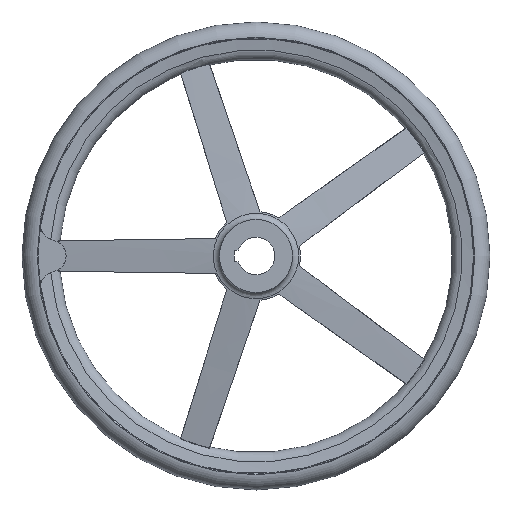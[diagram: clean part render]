
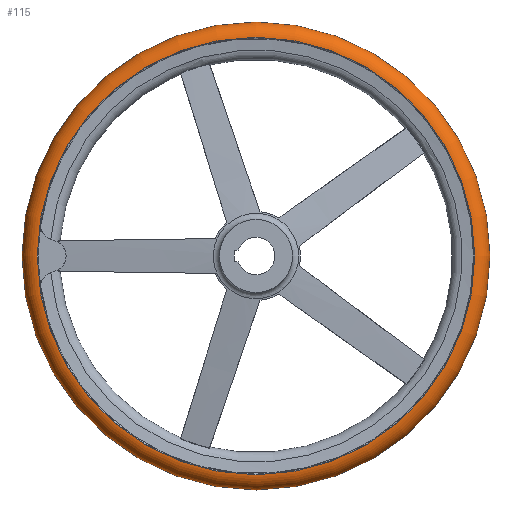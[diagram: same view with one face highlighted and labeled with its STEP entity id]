
A CAD part, left-side view. The second image highlights one B-rep face of the part: STEP entity #115.
In plain terms, the highlighted toroidal (fillet/blend) face has major radius 232.985 mm and minor radius 17.015 mm.
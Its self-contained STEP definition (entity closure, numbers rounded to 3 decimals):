
#115 = ADVANCED_FACE( '', ( #229, #230, #231 ), #232, .T. );
#229 = FACE_BOUND( '', #367, .T. );
#230 = FACE_OUTER_BOUND( '', #368, .T. );
#231 = FACE_OUTER_BOUND( '', #369, .T. );
#232 = TOROIDAL_SURFACE( '', #370, 232.985, 17.015 );
#367 = VERTEX_LOOP( '', #755 );
#368 = EDGE_LOOP( '', ( #756 ) );
#369 = EDGE_LOOP( '', ( #757 ) );
#370 = AXIS2_PLACEMENT_3D( '', #758, #759, #760 );
#755 = VERTEX_POINT( '', #1056 );
#756 = ORIENTED_EDGE( '', *, *, #1057, .T. );
#757 = ORIENTED_EDGE( '', *, *, #1055, .F. );
#758 = CARTESIAN_POINT( '', ( 55., 0., 0. ) );
#759 = DIRECTION( '', ( -1., 0., 0. ) );
#760 = DIRECTION( '', ( 0., -1., 0. ) );
#1055 = EDGE_CURVE( '', #1324, #1324, #1325, .T. );
#1056 = CARTESIAN_POINT( '', ( 55., -250., 0. ) );
#1057 = EDGE_CURVE( '', #1326, #1326, #1327, .T. );
#1324 = VERTEX_POINT( '', #2205 );
#1325 = CIRCLE( '', #2206, 233.708 );
#1326 = VERTEX_POINT( '', #2207 );
#1327 = CIRCLE( '', #2208, 233.708 );
#2205 = CARTESIAN_POINT( '', ( 38., -233.708, 0. ) );
#2206 = AXIS2_PLACEMENT_3D( '', #2487, #2488, #2489 );
#2207 = CARTESIAN_POINT( '', ( 72., -233.708, 0. ) );
#2208 = AXIS2_PLACEMENT_3D( '', #2490, #2491, #2492 );
#2487 = CARTESIAN_POINT( '', ( 38., 0., 0. ) );
#2488 = DIRECTION( '', ( -1., 0., 0. ) );
#2489 = DIRECTION( '', ( 0., -1., 0. ) );
#2490 = CARTESIAN_POINT( '', ( 72., 0., 0. ) );
#2491 = DIRECTION( '', ( -1., 0., 0. ) );
#2492 = DIRECTION( '', ( 0., -1., 0. ) );
